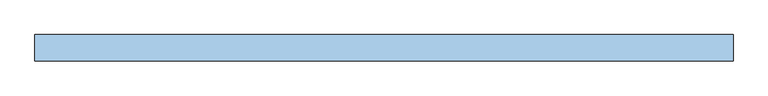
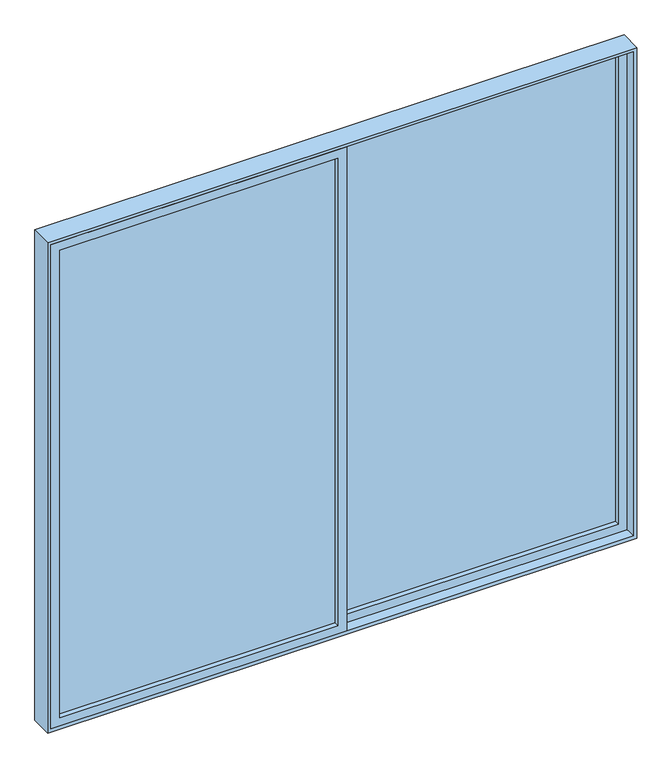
"""IFC4 building model written with IfcOpenShell, lengths in millimetres: window geometry, VENT_ALUM_CORR_2HOJAS_CORRE 1 : V7-VENT_ALUM_CORR_2HOJAS_CORRE 1."""

from ifc_helpers import new_model, si_unit, frame, origin, place, context, project, spatial, polyline, outline, extrude, source, transform, mapped, element, save


def window_76b8c877(model_context):
    return source(origin(), model_context, "Body", "SweptSolid", [
        extrude(outline(polyline([(-20.0, -28.0), (-1280.0, -28.0), (-1280.0, -22.0), (-20.0, -22.0), (-20.0, -28.0)])), frame((0.0, 0.0, 55.0), z_axis=(0.0, 0.0, 1.0), x_axis=(1.0, 0.0, 0.0)), (0.0, 0.0, 1.0), 2240.0),
        extrude(outline(polyline([(15.0, -1320.0), (15.0, 20.0), (2335.0, 20.0), (2335.0, -1320.0), (15.0, -1320.0)]), holes=[polyline([(2295.0, -1280.0), (2295.0, -20.0), (55.0, -20.0), (55.0, -1280.0), (2295.0, -1280.0)])]), frame((0.0, -50.0, 0.0), z_axis=(0.0, 1.0, 0.0), x_axis=(0.0, 0.0, 1.0)), (0.0, 0.0, 1.0), 50.0),
        extrude(outline(polyline([(20.0, 28.0), (1280.0, 28.0), (1280.0, 22.0), (20.0, 22.0), (20.0, 28.0)])), frame((0.0, 0.0, 55.0), z_axis=(0.0, 0.0, 1.0), x_axis=(1.0, 0.0, 0.0)), (0.0, 0.0, 1.0), 2240.0),
        extrude(outline(polyline([(15.0, -20.0), (15.0, 1320.0), (2335.0, 1320.0), (2335.0, -20.0), (15.0, -20.0)]), holes=[polyline([(2295.0, 20.0), (2295.0, 1280.0), (55.0, 1280.0), (55.0, 20.0), (2295.0, 20.0)])]), frame((0.0, 0.0, 0.0), z_axis=(0.0, 1.0, 0.0), x_axis=(0.0, 0.0, 1.0)), (0.0, 0.0, 1.0), 50.0),
        extrude(outline(polyline([(0.0, -1335.0), (0.0, 1335.0), (2350.0, 1335.0), (2350.0, -1335.0), (0.0, -1335.0)]), holes=[polyline([(2335.0, -1320.0), (2335.0, 1320.0), (15.0, 1320.0), (15.0, -1320.0), (2335.0, -1320.0)])]), frame((0.0, -50.0, 0.0), z_axis=(0.0, 1.0, 0.0), x_axis=(0.0, 0.0, 1.0)), (0.0, 0.0, 1.0), 100.0),
    ])


if __name__ == "__main__":
    model = new_model("IFC4")
    model_context = context("Model", 3, world=origin())
    ifc_project = project(units=[si_unit("LENGTHUNIT", "METRE", prefix="MILLI")], contexts=[model_context])
    site = spatial("IfcSite", under=ifc_project)
    building = spatial("IfcBuilding", under=site)
    placement = place(None, origin())
    window_shape = window_76b8c877(model_context)
    element("IfcWindow", 1, ObjectType="VENT_ALUM_CORR_2HOJAS_CORRE 1 : V7-VENT_ALUM_CORR_2HOJAS_CORRE 1", at=placement, inside=building, context=model_context, shape_type="MappedRepresentation", body=[
        mapped(window_shape, transform((0.0, 0.0, 0.0), x_axis=(1.0, 0.0, 0.0), y_axis=(0.0, 1.0, 0.0), z_axis=(0.0, 0.0, 1.0))),
    ])
    save(model, "model.ifc")
